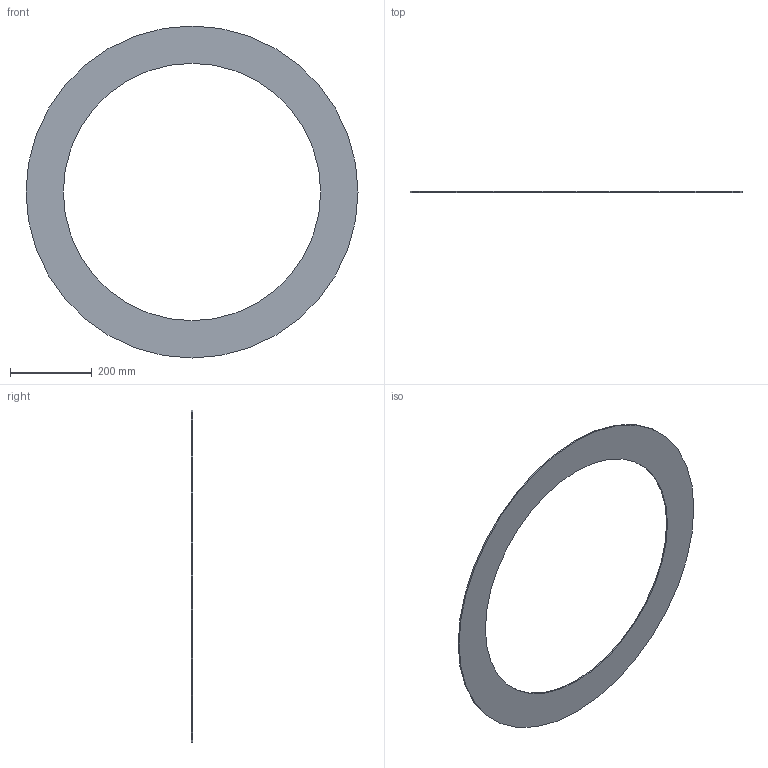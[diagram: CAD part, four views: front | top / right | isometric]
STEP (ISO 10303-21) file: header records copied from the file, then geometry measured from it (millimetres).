
FILE_DESCRIPTION(/* description */ ('Unknown'),/* implementation_level */ '2;1');
FILE_NAME(/* name */ 'GUA.710B',/* time_stamp */ '2021-04-01T14:31:03+02:00',/* author */ ('Unknown'),/* organization */ ('Unknown'),/* preprocessor_version */ 'ST-DEVELOPER v16.7',/* originating_system */ 'Solid Edge',/* authorisation */ 'Unknown');
FILE_SCHEMA (('AUTOMOTIVE_DESIGN {1 0 10303 214 3 1 1}'));
Length unit declared in the file: millimetre
Products named in the file (1): GUA.710B
Bounding box: 810 x 3 x 810 mm (x, y, z)
Volume: 616653.8 mm3; surface area: 424655.4 mm2
Topology: 1 solids, 1 shells, 4 faces, 6 edges, 4 vertices
Faces by surface type: cylinder 2, plane 2
Full cylindrical faces by diameter (mm): 628 x1, 810 x1
Entity records: 118 total; most frequent: DIRECTION 18, CARTESIAN_POINT 13, AXIS2_PLACEMENT_3D 9, ORIENTED_EDGE 8, EDGE_LOOP 8, FACE_BOUND 8, EDGE_CURVE 4, VERTEX_POINT 4
